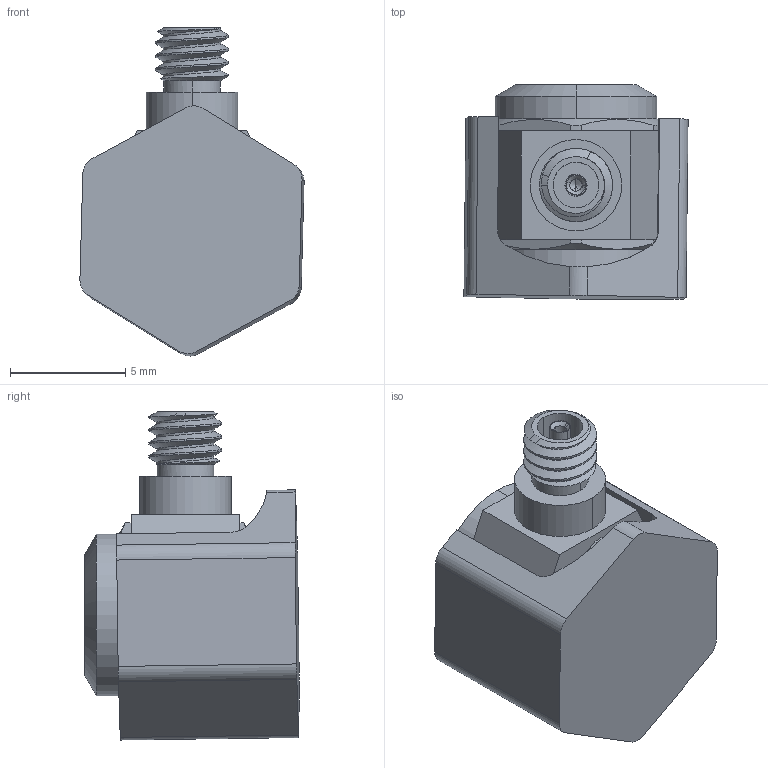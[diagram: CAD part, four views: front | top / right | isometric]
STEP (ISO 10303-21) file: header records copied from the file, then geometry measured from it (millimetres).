
FILE_DESCRIPTION (( 'STEP AP214' ), '1' );
FILE_NAME ('3035M20.STEP', '2018-02-27T16:17:27', ( 'Dytran' ), ( '' ), 'SwSTEP 2.0', 'SolidWorks 2016', '' );
FILE_SCHEMA (( 'AUTOMOTIVE_DESIGN' ));
Length unit declared in the file: inch
Products named in the file (1): 3035M20
Bounding box: 9.73 x 9.31 x 14.25 mm (x, y, z)
Volume: 630.3 mm3; surface area: 842 mm2
Topology: 1 solids, 2 shells, 139 faces, 582 edges, 474 vertices
Faces by surface type: plane 62, cylinder 55, cone 19, bspline 3
Entity records: 10325 total; most frequent: CARTESIAN_POINT 4168, ORIENTED_EDGE 1160, EDGE_CURVE 580, DIRECTION 568, VERTEX_POINT 474, B_SPLINE_CURVE_WITH_KNOTS 338, AXIS2_PLACEMENT_3D 215, EDGE_LOOP 170
